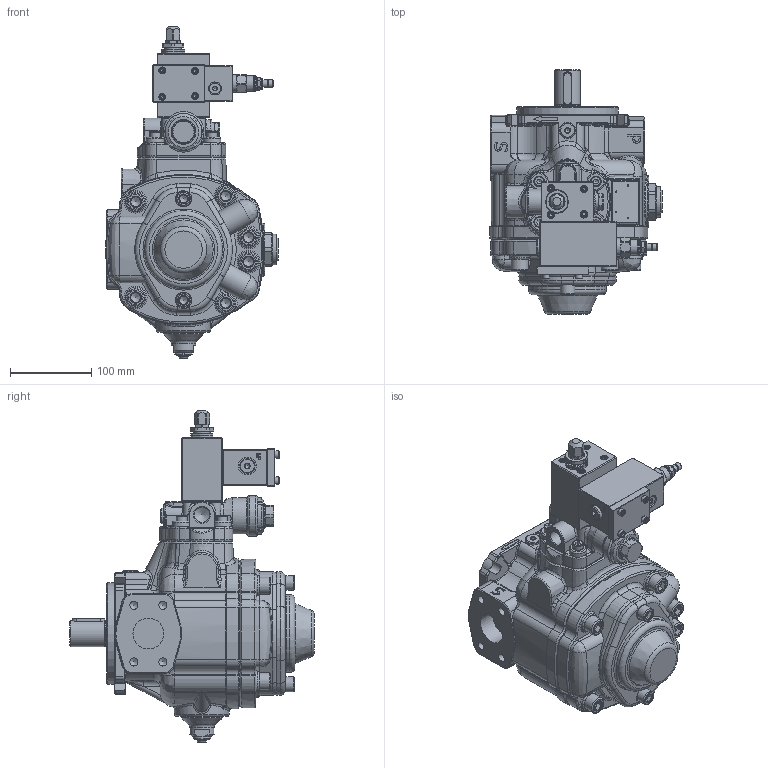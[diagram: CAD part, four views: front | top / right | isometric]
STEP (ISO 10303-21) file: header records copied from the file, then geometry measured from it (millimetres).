
FILE_DESCRIPTION(/* description */ (''),/* implementation_level */ '2;1');
FILE_NAME(/* name */ 'C:\Users\marcop\Desktop\01 PHPK 2 FHRMA.stp',/* time_stamp */ '2019-11-21T11:13:21+01:00',/* author */ ('marcop'),/* organization */ (''),/* preprocessor_version */ 'ST-DEVELOPER v17',/* originating_system */ 'Autodesk Inventor 2018',/* authorisation */ '');
FILE_SCHEMA (('AUTOMOTIVE_DESIGN { 1 0 10303 214 3 1 1 }'));
Products named in the file (1): PLP - PHP 2_Shrinkwrap_1
Bounding box: 212.17 x 301.5 x 409.1 mm (x, y, z)
Volume: 5101901.8 mm3; surface area: 476267.3 mm2
Topology: 2 solids, 2 shells, 2490 faces, 6373 edges, 3967 vertices
Faces by surface type: plane 986, cylinder 531, bspline 428, cone 275, torus 236, sphere 34
Full cylindrical faces by diameter (mm): 1.7 x4, 2.5 x3, 4 x1, 7.671 x2, 8 x1, 8.376 x4, 8.5 x8, 9.347 x2, 9.5 x4, 10 x1, 10.106 x4, 12 x2, 13 x4, 13.487 x1, 13.767 x2, 14 x3, 15.5 x1, 16 x2, 17.78 x1, 18 x2, 18.631 x1, 18.974 x2, 19 x5, 20 x6, 21 x6, 21.768 x1, 22 x2, 23 x1, 25 x8, 27 x1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
Entity records: 91553 total; most frequent: CARTESIAN_POINT 31646, ORIENTED_EDGE 12610, DIRECTION 11349, EDGE_CURVE 6305, AXIS2_PLACEMENT_3D 4382, VERTEX_POINT 3967, EDGE_LOOP 2642, LINE 2585
